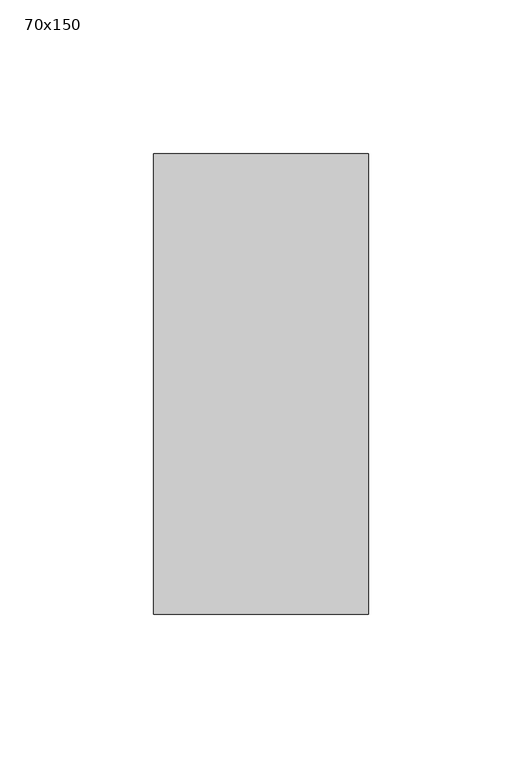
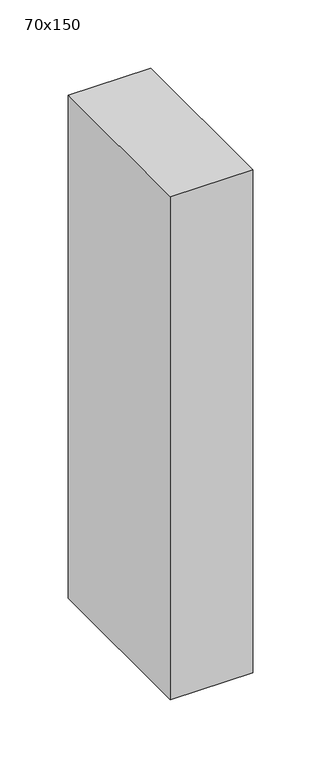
"""IFC4 building model written with IfcOpenShell, lengths in millimetres: member geometry, 長方形のマリオン : 70x150."""

from ifc_helpers import new_model, si_unit, frame, origin, place, context, project, spatial, polyline, outline, extrude, source, transform, mapped, element, save


def member_70x150_87b27eb4(model_context):
    return source(origin(), model_context, "Body", "SweptSolid", [
        extrude(outline(polyline([(35.0, 75.0), (35.0, -75.0), (-35.0, -75.0), (-35.0, 75.0), (35.0, 75.0)])), frame((0.0, 0.0, -451.131963), z_axis=(0.0, 0.0, 1.0), x_axis=(1.0, 0.0, 0.0)), (0.0, 0.0, 1.0), 451.131963),
    ])


if __name__ == "__main__":
    model = new_model("IFC4")
    model_context = context("Model", 3, world=origin())
    ifc_project = project(units=[si_unit("LENGTHUNIT", "METRE", prefix="MILLI")], contexts=[model_context])
    site = spatial("IfcSite", under=ifc_project)
    building = spatial("IfcBuilding", under=site)
    placement = place(None, origin())
    member_70x150_shape = member_70x150_87b27eb4(model_context)
    element("IfcMember", 1, ObjectType="長方形のマリオン : 70x150", at=placement, inside=building, context=model_context, shape_type="MappedRepresentation", body=[
        mapped(member_70x150_shape, transform((0.0, 0.0, 0.0), x_axis=(1.0, 0.0, 0.0), y_axis=(0.0, 1.0, 0.0), z_axis=(0.0, 0.0, 1.0))),
    ])
    save(model, "model.ifc")
